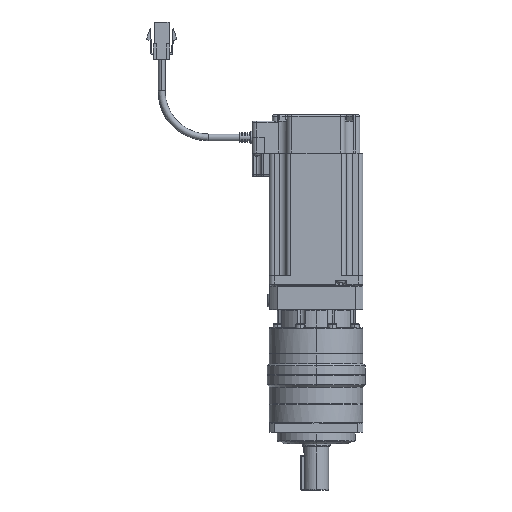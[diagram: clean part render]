
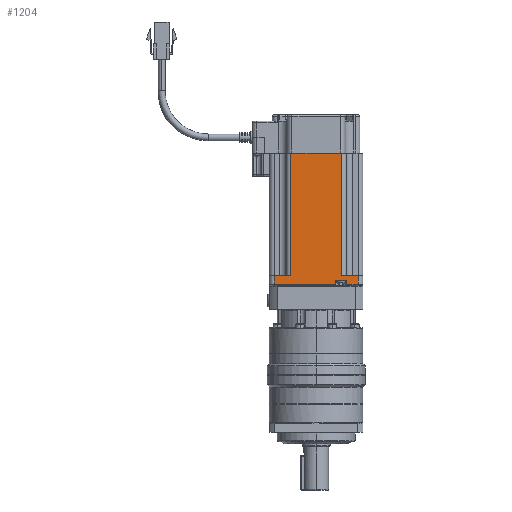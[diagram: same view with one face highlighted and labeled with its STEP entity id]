
A CAD part, left-side view. The second image highlights one B-rep face of the part: STEP entity #1204.
In plain terms, the highlighted planar face has unit normal (-1, 0, 0) as drawn and (1, 0, 0) by its records, which use the part's own axes.
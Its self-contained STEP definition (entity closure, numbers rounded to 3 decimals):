
#1204 = ADVANCED_FACE ( 'NONE', ( #44618 ), #46430, .T. ) ;
#3234 = VERTEX_POINT ( 'NONE', #36055 ) ;
#3236 = VERTEX_POINT ( 'NONE', #36056 ) ;
#3278 = VERTEX_POINT ( 'NONE', #36078 ) ;
#3284 = VERTEX_POINT ( 'NONE', #36081 ) ;
#3835 = VERTEX_POINT ( 'NONE', #36197 ) ;
#3837 = VERTEX_POINT ( 'NONE', #36198 ) ;
#3854 = VERTEX_POINT ( 'NONE', #36207 ) ;
#3866 = VERTEX_POINT ( 'NONE', #36213 ) ;
#3877 = VERTEX_POINT ( 'NONE', #36219 ) ;
#3924 = VERTEX_POINT ( 'NONE', #36232 ) ;
#3955 = VERTEX_POINT ( 'NONE', #36240 ) ;
#3978 = VERTEX_POINT ( 'NONE', #36249 ) ;
#6693 = LINE ( 'NONE', #9756, #6697 ) ;
#6697 = VECTOR ( 'NONE', #9749, 1000. ) ;
#6715 = LINE ( 'NONE', #9777, #6721 ) ;
#6721 = VECTOR ( 'NONE', #9779, 1000. ) ;
#6809 = LINE ( 'NONE', #9840, #6812 ) ;
#6812 = VECTOR ( 'NONE', #9841, 1000. ) ;
#6924 = LINE ( 'NONE', #11752, #6927 ) ;
#6926 = LINE ( 'NONE', #11757, #6929 ) ;
#6927 = VECTOR ( 'NONE', #11755, 1000. ) ;
#6929 = VECTOR ( 'NONE', #11760, 1000. ) ;
#6932 = LINE ( 'NONE', #11791, #6942 ) ;
#6940 = LINE ( 'NONE', #11806, #6948 ) ;
#6942 = VECTOR ( 'NONE', #11780, 1000. ) ;
#6947 = LINE ( 'NONE', #11815, #6950 ) ;
#6948 = VECTOR ( 'NONE', #11811, 1000. ) ;
#6950 = VECTOR ( 'NONE', #11818, 1000. ) ;
#6952 = LINE ( 'NONE', #11831, #6956 ) ;
#6956 = VECTOR ( 'NONE', #11833, 1000. ) ;
#6957 = LINE ( 'NONE', #11820, #6968 ) ;
#6959 = LINE ( 'NONE', #11839, #6962 ) ;
#6962 = VECTOR ( 'NONE', #11840, 1000. ) ;
#6968 = VECTOR ( 'NONE', #11845, 1000. ) ;
#7048 = LINE ( 'NONE', #12187, #7049 ) ;
#7049 = VECTOR ( 'NONE', #12196, 1000. ) ;
#9749 = DIRECTION ( 'NONE',  ( 0., 1., 0. ) ) ;
#9756 = CARTESIAN_POINT ( 'NONE',  ( 92.176, 0., -127. ) ) ;
#9777 = CARTESIAN_POINT ( 'NONE',  ( 92.176, 201.992, -212. ) ) ;
#9779 = DIRECTION ( 'NONE',  ( 0., 0., -1. ) ) ;
#9840 = CARTESIAN_POINT ( 'NONE',  ( 92.176, 155.692, -205.7 ) ) ;
#9841 = DIRECTION ( 'NONE',  ( 0., -1., 0. ) ) ;
#11752 = CARTESIAN_POINT ( 'NONE',  ( 92.176, 212.692, -212. ) ) ;
#11755 = DIRECTION ( 'NONE',  ( 0., 0., 1. ) ) ;
#11757 = CARTESIAN_POINT ( 'NONE',  ( 92.176, 169.392, -212. ) ) ;
#11760 = DIRECTION ( 'NONE',  ( 0., 0., -1. ) ) ;
#11780 = DIRECTION ( 'NONE',  ( 0., -1., 0. ) ) ;
#11791 = CARTESIAN_POINT ( 'NONE',  ( 92.176, 155.692, -205.7 ) ) ;
#11806 = CARTESIAN_POINT ( 'NONE',  ( 92.176, 155.692, -211. ) ) ;
#11811 = DIRECTION ( 'NONE',  ( 0., 1., 0. ) ) ;
#11815 = CARTESIAN_POINT ( 'NONE',  ( 92.176, 205.292, -212. ) ) ;
#11818 = DIRECTION ( 'NONE',  ( 0., 0., -1. ) ) ;
#11820 = CARTESIAN_POINT ( 'NONE',  ( 92.176, 155.692, -211. ) ) ;
#11831 = CARTESIAN_POINT ( 'NONE',  ( 92.176, 155.692, -208.5 ) ) ;
#11833 = DIRECTION ( 'NONE',  ( 0., 1., 0. ) ) ;
#11839 = CARTESIAN_POINT ( 'NONE',  ( 92.176, 197.892, -212. ) ) ;
#11840 = DIRECTION ( 'NONE',  ( 0., 0., 1. ) ) ;
#11845 = DIRECTION ( 'NONE',  ( 0., 1., 0. ) ) ;
#12187 = CARTESIAN_POINT ( 'NONE',  ( 92.176, 158.692, -212. ) ) ;
#12196 = DIRECTION ( 'NONE',  ( 0., 0., -1. ) ) ;
#32113 = ORIENTED_EDGE ( 'NONE', *, *, #40771, .T. ) ;
#32114 = ORIENTED_EDGE ( 'NONE', *, *, #40780, .T. ) ;
#32115 = ORIENTED_EDGE ( 'NONE', *, *, #35560, .F. ) ;
#32116 = ORIENTED_EDGE ( 'NONE', *, *, #35553, .F. ) ;
#32117 = ORIENTED_EDGE ( 'NONE', *, *, #40772, .T. ) ;
#32118 = ORIENTED_EDGE ( 'NONE', *, *, #35588, .T. ) ;
#32119 = ORIENTED_EDGE ( 'NONE', *, *, #40896, .T. ) ;
#32120 = ORIENTED_EDGE ( 'NONE', *, *, #40797, .T. ) ;
#32121 = ORIENTED_EDGE ( 'NONE', *, *, #40794, .T. ) ;
#32122 = ORIENTED_EDGE ( 'NONE', *, *, #40791, .T. ) ;
#32123 = ORIENTED_EDGE ( 'NONE', *, *, #40786, .T. ) ;
#32125 = ORIENTED_EDGE ( 'NONE', *, *, #40785, .T. ) ;
#35553 = EDGE_CURVE ( 'NONE', #3236, #3234, #6693, .T. ) ;
#35560 = EDGE_CURVE ( 'NONE', #3234, #3877, #6715, .T. ) ;
#35588 = EDGE_CURVE ( 'NONE', #3278, #3284, #6809, .T. ) ;
#36055 = CARTESIAN_POINT ( 'NONE',  ( 92.176, 201.992, -127. ) ) ;
#36056 = CARTESIAN_POINT ( 'NONE',  ( 92.176, 169.392, -127. ) ) ;
#36078 = CARTESIAN_POINT ( 'NONE',  ( 92.176, 169.392, -205.7 ) ) ;
#36081 = CARTESIAN_POINT ( 'NONE',  ( 92.176, 158.692, -205.7 ) ) ;
#36197 = CARTESIAN_POINT ( 'NONE',  ( 92.176, 205.292, -211. ) ) ;
#36198 = CARTESIAN_POINT ( 'NONE',  ( 92.176, 197.892, -208.5 ) ) ;
#36207 = CARTESIAN_POINT ( 'NONE',  ( 92.176, 158.692, -211. ) ) ;
#36213 = CARTESIAN_POINT ( 'NONE',  ( 92.176, 212.692, -205.7 ) ) ;
#36219 = CARTESIAN_POINT ( 'NONE',  ( 92.176, 201.992, -205.7 ) ) ;
#36232 = CARTESIAN_POINT ( 'NONE',  ( 92.176, 205.292, -208.5 ) ) ;
#36240 = CARTESIAN_POINT ( 'NONE',  ( 92.176, 197.892, -211. ) ) ;
#36249 = CARTESIAN_POINT ( 'NONE',  ( 92.176, 212.692, -211. ) ) ;
#37790 = EDGE_LOOP ( 'NONE', ( #32113, #32114, #32115, #32116, #32117, #32118, #32119, #32120, #32121, #32122, #32123, #32125 ) ) ;
#40771 = EDGE_CURVE ( 'NONE', #3978, #3866, #6924, .T. ) ;
#40772 = EDGE_CURVE ( 'NONE', #3236, #3278, #6926, .T. ) ;
#40780 = EDGE_CURVE ( 'NONE', #3866, #3877, #6932, .T. ) ;
#40785 = EDGE_CURVE ( 'NONE', #3835, #3978, #6940, .T. ) ;
#40786 = EDGE_CURVE ( 'NONE', #3924, #3835, #6947, .T. ) ;
#40791 = EDGE_CURVE ( 'NONE', #3837, #3924, #6952, .T. ) ;
#40794 = EDGE_CURVE ( 'NONE', #3955, #3837, #6959, .T. ) ;
#40797 = EDGE_CURVE ( 'NONE', #3854, #3955, #6957, .T. ) ;
#40896 = EDGE_CURVE ( 'NONE', #3284, #3854, #7048, .T. ) ;
#44618 = FACE_OUTER_BOUND ( 'NONE', #37790, .T. ) ;
#46430 = PLANE ( 'NONE',  #46667 ) ;
#46433 = CARTESIAN_POINT ( 'NONE',  ( 92.176, 155.692, -212. ) ) ;
#46441 = DIRECTION ( 'NONE',  ( 1., 0., 0. ) ) ;
#46443 = DIRECTION ( 'NONE',  ( 0., 0., -1. ) ) ;
#46667 = AXIS2_PLACEMENT_3D ( 'NONE', #46433, #46441, #46443 ) ;
